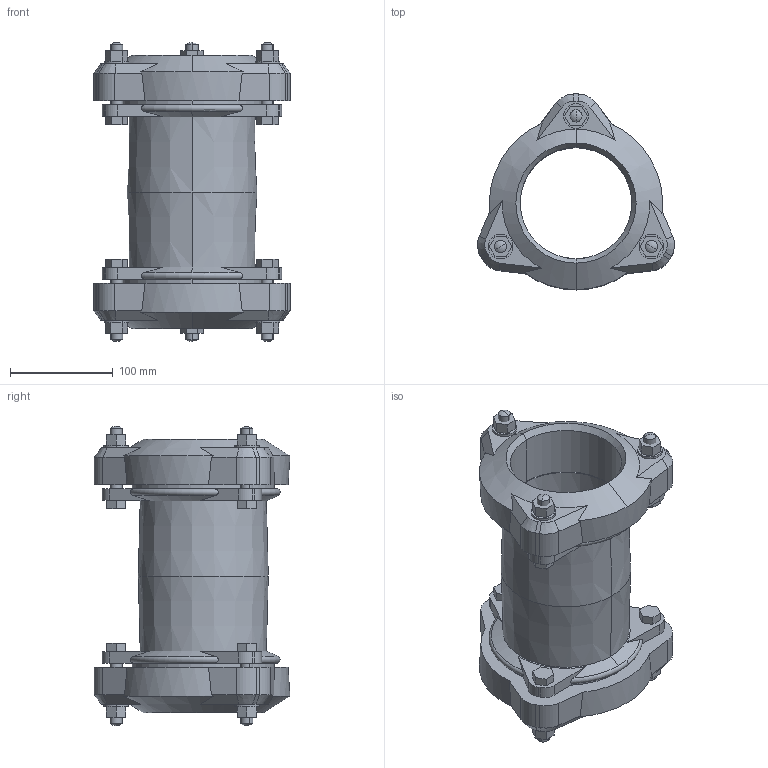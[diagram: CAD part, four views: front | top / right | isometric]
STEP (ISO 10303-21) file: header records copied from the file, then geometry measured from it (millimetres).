
FILE_DESCRIPTION((''),'2;1');
FILE_NAME('BIM_13198_4_ASM','2019-04-09T',('MReader'),(''),'CREO PARAMETRIC BY PTC INC, 2016130','CREO PARAMETRIC BY PTC INC, 2016130','');
FILE_SCHEMA(('CONFIG_CONTROL_DESIGN'));
Length unit declared in the file: millimetre
Products named in the file (3): BIM_12236_OLD; BIM_13230_5; BIM_13198_4_ASM
Assembly tree (3 placements, depth 2):
  BIM_13198_4_ASM
    BIM_12236_OLD
    BIM_13230_5  x2
Bounding box: 191.67 x 190.52 x 291.2 mm (x, y, z)
Volume: 1872627.8 mm3; surface area: 322603.7 mm2
Topology: 3 solids, 3 shells, 282 faces, 722 edges, 454 vertices
Faces by surface type: plane 164, cylinder 56, cone 46, sphere 12, torus 4
Entity records: 6546 total; most frequent: CARTESIAN_POINT 1458, DIRECTION 1049, ORIENTED_EDGE 1040, EDGE_CURVE 520, AXIS2_PLACEMENT_3D 366, VERTEX_POINT 334, VECTOR 317, LINE 317
